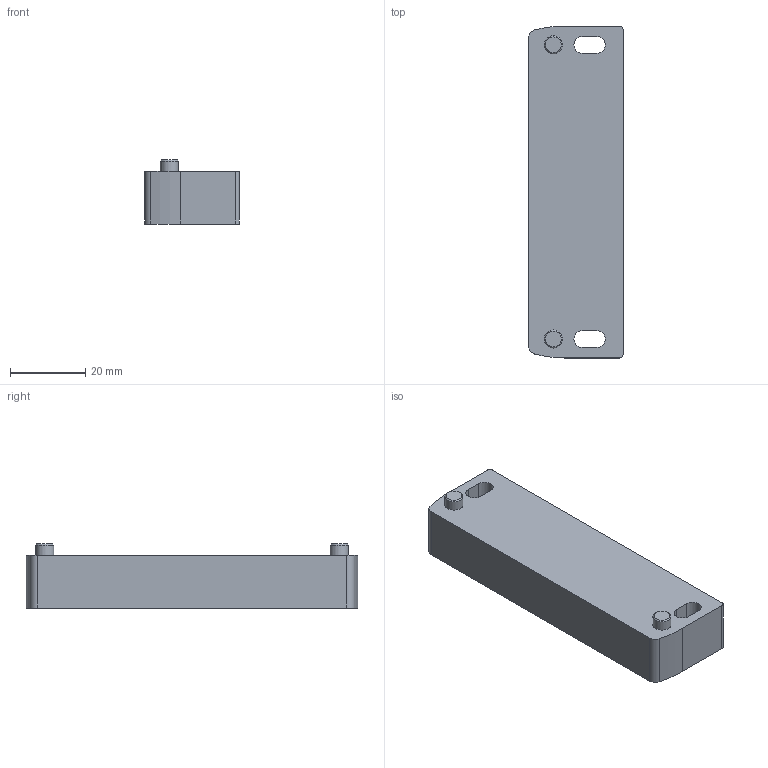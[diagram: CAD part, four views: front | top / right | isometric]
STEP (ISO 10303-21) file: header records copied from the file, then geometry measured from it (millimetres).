
FILE_DESCRIPTION(/* description */ ('STEP AP203'),/* implementation_level */ '2;1');
FILE_NAME(/* name */ 'P_MZ_Z_1309',/* time_stamp */ '2023-03-02T11:11:50+01:00',/* author */ ('License CC BY-ND 4.0'),/* organization */ ('CADENAS'),/* preprocessor_version */ 'ST-DEVELOPER v18.102',/* originating_system */ 'PARTsolutions',/* authorisation */ ' ');
FILE_SCHEMA (('CONFIG_CONTROL_DESIGN'));
Length unit declared in the file: millimetre
Products named in the file (1): P_MZ_Z_1309
Bounding box: 25 x 88 x 17 mm (x, y, z)
Volume: 29317.2 mm3; surface area: 8441.9 mm2
Topology: 1 solids, 1 shells, 30 faces, 70 edges, 46 vertices
Faces by surface type: plane 14, cylinder 14, cone 2
Full cylindrical faces by diameter (mm): 4.8 x2, 5.2 x2
Entity records: 876 total; most frequent: DIRECTION 156, CARTESIAN_POINT 141, ORIENTED_EDGE 128, EDGE_CURVE 64, AXIS2_PLACEMENT_3D 61, VERTEX_POINT 46, EDGE_LOOP 44, FACE_BOUND 44
